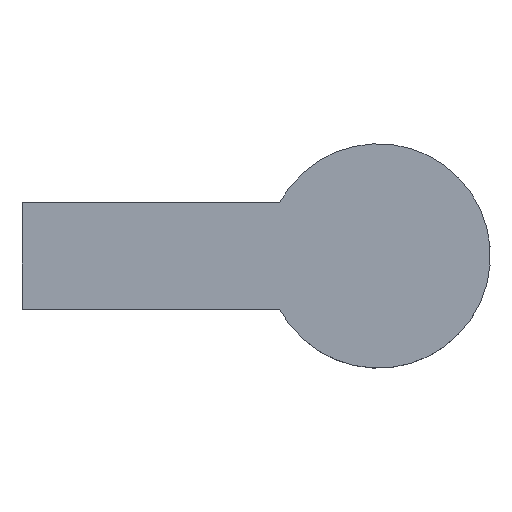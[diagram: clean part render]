
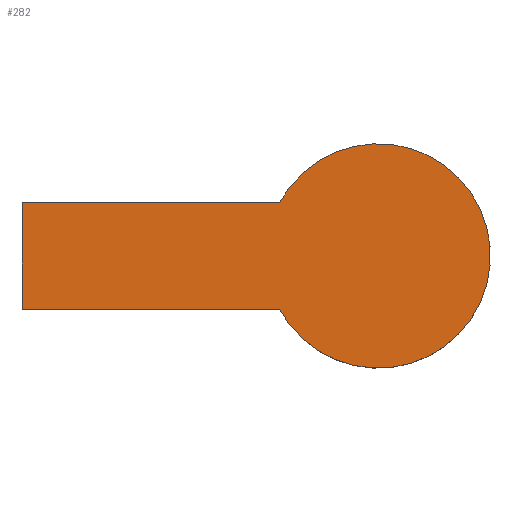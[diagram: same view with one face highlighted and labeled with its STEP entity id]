
A CAD part, top view. The second image highlights one B-rep face of the part: STEP entity #282.
In plain terms, the highlighted planar face has unit normal (0, 0, 1).
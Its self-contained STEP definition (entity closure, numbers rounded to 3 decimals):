
#51 = CYLINDRICAL_SURFACE('',#52,3.15);
#52 = AXIS2_PLACEMENT_3D('',#53,#54,#55);
#53 = CARTESIAN_POINT('',(0.,0.,0.));
#54 = DIRECTION('',(0.,0.,1.));
#55 = DIRECTION('',(1.,0.,-0.));
#76 = VERTEX_POINT('',#77);
#77 = CARTESIAN_POINT('',(-2.77,1.5,2.));
#90 = PLANE('',#91);
#91 = AXIS2_PLACEMENT_3D('',#92,#93,#94);
#92 = CARTESIAN_POINT('',(-10.,1.5,0.));
#93 = DIRECTION('',(-0.,1.,0.));
#94 = DIRECTION('',(0.,0.,1.));
#101 = EDGE_CURVE('',#76,#102,#104,.T.);
#102 = VERTEX_POINT('',#103);
#103 = CARTESIAN_POINT('',(-2.77,-1.5,2.));
#104 = SURFACE_CURVE('',#105,(#110,#117),.PCURVE_S1.);
#105 = CIRCLE('',#106,3.15);
#106 = AXIS2_PLACEMENT_3D('',#107,#108,#109);
#107 = CARTESIAN_POINT('',(0.,0.,2.));
#108 = DIRECTION('',(0.,0.,-1.));
#109 = DIRECTION('',(-0.879,0.476,0.));
#110 = PCURVE('',#51,#111);
#111 = DEFINITIONAL_REPRESENTATION('',(#112),#116);
#112 = LINE('',#113,#114);
#113 = CARTESIAN_POINT('',(8.928,2.));
#114 = VECTOR('',#115,1.);
#115 = DIRECTION('',(-1.,-0.));
#116 = ( GEOMETRIC_REPRESENTATION_CONTEXT(2) 
PARAMETRIC_REPRESENTATION_CONTEXT() REPRESENTATION_CONTEXT('2D SPACE',''
  ) );
#117 = PCURVE('',#118,#123);
#118 = PLANE('',#119);
#119 = AXIS2_PLACEMENT_3D('',#120,#121,#122);
#120 = CARTESIAN_POINT('',(0.,0.,2.));
#121 = DIRECTION('',(0.,0.,1.));
#122 = DIRECTION('',(1.,0.,-0.));
#123 = DEFINITIONAL_REPRESENTATION('',(#124),#132);
#124 = ( BOUNDED_CURVE() B_SPLINE_CURVE(2,(#125,#126,#127,#128,#129,#130
,#131),.UNSPECIFIED.,.T.,.F.) B_SPLINE_CURVE_WITH_KNOTS((1,2,2,2,2,1),(
    -2.094,0.,2.094,4.189,6.283,
8.378),.UNSPECIFIED.) CURVE() GEOMETRIC_REPRESENTATION_ITEM() 
RATIONAL_B_SPLINE_CURVE((1.,0.5,1.,0.5,1.,0.5,1.)) REPRESENTATION_ITEM(
  '') );
#125 = CARTESIAN_POINT('',(-2.77,1.5));
#126 = CARTESIAN_POINT('',(-0.172,6.298));
#127 = CARTESIAN_POINT('',(2.684,1.649));
#128 = CARTESIAN_POINT('',(5.54,-3.));
#129 = CARTESIAN_POINT('',(0.086,-3.149));
#130 = CARTESIAN_POINT('',(-5.368,-3.298));
#131 = CARTESIAN_POINT('',(-2.77,1.5));
#132 = ( GEOMETRIC_REPRESENTATION_CONTEXT(2) 
PARAMETRIC_REPRESENTATION_CONTEXT() REPRESENTATION_CONTEXT('2D SPACE',''
  ) );
#147 = PLANE('',#148);
#148 = AXIS2_PLACEMENT_3D('',#149,#150,#151);
#149 = CARTESIAN_POINT('',(-10.,-1.5,0.));
#150 = DIRECTION('',(-0.,1.,0.));
#151 = DIRECTION('',(0.,0.,1.));
#201 = PLANE('',#202);
#202 = AXIS2_PLACEMENT_3D('',#203,#204,#205);
#203 = CARTESIAN_POINT('',(-10.,-1.5,0.));
#204 = DIRECTION('',(1.,0.,-0.));
#205 = DIRECTION('',(0.,0.,1.));
#239 = VERTEX_POINT('',#240);
#240 = CARTESIAN_POINT('',(-10.,-1.5,2.));
#261 = EDGE_CURVE('',#239,#102,#262,.T.);
#262 = SURFACE_CURVE('',#263,(#267,#274),.PCURVE_S1.);
#263 = LINE('',#264,#265);
#264 = CARTESIAN_POINT('',(-10.,-1.5,2.));
#265 = VECTOR('',#266,1.);
#266 = DIRECTION('',(1.,0.,-0.));
#267 = PCURVE('',#147,#268);
#268 = DEFINITIONAL_REPRESENTATION('',(#269),#273);
#269 = LINE('',#270,#271);
#270 = CARTESIAN_POINT('',(2.,0.));
#271 = VECTOR('',#272,1.);
#272 = DIRECTION('',(0.,1.));
#273 = ( GEOMETRIC_REPRESENTATION_CONTEXT(2) 
PARAMETRIC_REPRESENTATION_CONTEXT() REPRESENTATION_CONTEXT('2D SPACE',''
  ) );
#274 = PCURVE('',#118,#275);
#275 = DEFINITIONAL_REPRESENTATION('',(#276),#280);
#276 = LINE('',#277,#278);
#277 = CARTESIAN_POINT('',(-10.,-1.5));
#278 = VECTOR('',#279,1.);
#279 = DIRECTION('',(1.,0.));
#280 = ( GEOMETRIC_REPRESENTATION_CONTEXT(2) 
PARAMETRIC_REPRESENTATION_CONTEXT() REPRESENTATION_CONTEXT('2D SPACE',''
  ) );
#282 = ADVANCED_FACE('',(#283),#118,.T.);
#283 = FACE_BOUND('',#284,.T.);
#284 = EDGE_LOOP('',(#285,#286,#309,#330));
#285 = ORIENTED_EDGE('',*,*,#101,.F.);
#286 = ORIENTED_EDGE('',*,*,#287,.F.);
#287 = EDGE_CURVE('',#288,#76,#290,.T.);
#288 = VERTEX_POINT('',#289);
#289 = CARTESIAN_POINT('',(-10.,1.5,2.));
#290 = SURFACE_CURVE('',#291,(#295,#302),.PCURVE_S1.);
#291 = LINE('',#292,#293);
#292 = CARTESIAN_POINT('',(-10.,1.5,2.));
#293 = VECTOR('',#294,1.);
#294 = DIRECTION('',(1.,0.,-0.));
#295 = PCURVE('',#118,#296);
#296 = DEFINITIONAL_REPRESENTATION('',(#297),#301);
#297 = LINE('',#298,#299);
#298 = CARTESIAN_POINT('',(-10.,1.5));
#299 = VECTOR('',#300,1.);
#300 = DIRECTION('',(1.,0.));
#301 = ( GEOMETRIC_REPRESENTATION_CONTEXT(2) 
PARAMETRIC_REPRESENTATION_CONTEXT() REPRESENTATION_CONTEXT('2D SPACE',''
  ) );
#302 = PCURVE('',#90,#303);
#303 = DEFINITIONAL_REPRESENTATION('',(#304),#308);
#304 = LINE('',#305,#306);
#305 = CARTESIAN_POINT('',(2.,0.));
#306 = VECTOR('',#307,1.);
#307 = DIRECTION('',(0.,1.));
#308 = ( GEOMETRIC_REPRESENTATION_CONTEXT(2) 
PARAMETRIC_REPRESENTATION_CONTEXT() REPRESENTATION_CONTEXT('2D SPACE',''
  ) );
#309 = ORIENTED_EDGE('',*,*,#310,.F.);
#310 = EDGE_CURVE('',#239,#288,#311,.T.);
#311 = SURFACE_CURVE('',#312,(#316,#323),.PCURVE_S1.);
#312 = LINE('',#313,#314);
#313 = CARTESIAN_POINT('',(-10.,-1.5,2.));
#314 = VECTOR('',#315,1.);
#315 = DIRECTION('',(-0.,1.,0.));
#316 = PCURVE('',#118,#317);
#317 = DEFINITIONAL_REPRESENTATION('',(#318),#322);
#318 = LINE('',#319,#320);
#319 = CARTESIAN_POINT('',(-10.,-1.5));
#320 = VECTOR('',#321,1.);
#321 = DIRECTION('',(0.,1.));
#322 = ( GEOMETRIC_REPRESENTATION_CONTEXT(2) 
PARAMETRIC_REPRESENTATION_CONTEXT() REPRESENTATION_CONTEXT('2D SPACE',''
  ) );
#323 = PCURVE('',#201,#324);
#324 = DEFINITIONAL_REPRESENTATION('',(#325),#329);
#325 = LINE('',#326,#327);
#326 = CARTESIAN_POINT('',(2.,0.));
#327 = VECTOR('',#328,1.);
#328 = DIRECTION('',(0.,-1.));
#329 = ( GEOMETRIC_REPRESENTATION_CONTEXT(2) 
PARAMETRIC_REPRESENTATION_CONTEXT() REPRESENTATION_CONTEXT('2D SPACE',''
  ) );
#330 = ORIENTED_EDGE('',*,*,#261,.T.);
